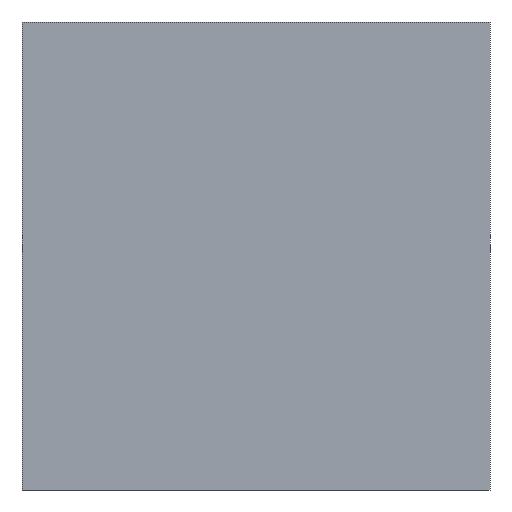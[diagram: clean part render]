
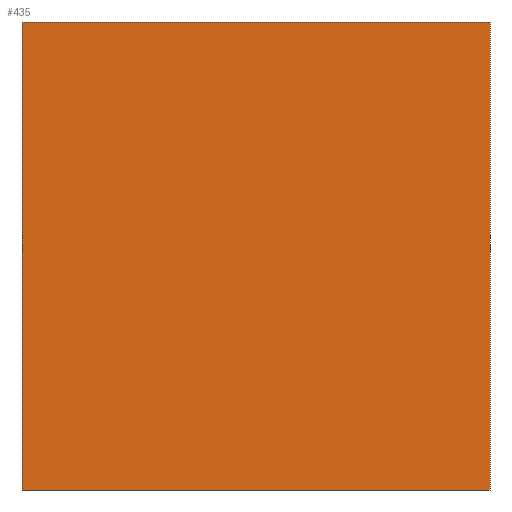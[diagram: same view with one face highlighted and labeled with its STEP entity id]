
A CAD part, front view. The second image highlights one B-rep face of the part: STEP entity #435.
In plain terms, the highlighted planar face has unit normal (0, -1, 0).
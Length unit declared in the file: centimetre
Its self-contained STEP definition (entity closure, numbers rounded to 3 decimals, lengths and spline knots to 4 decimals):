
#12 = VECTOR ( 'NONE', #166, 100. ) ;
#24 = CARTESIAN_POINT ( 'NONE',  ( 0., 0., 0. ) ) ;
#37 = EDGE_CURVE ( 'NONE', #336, #404, #504, .T. ) ;
#38 = CARTESIAN_POINT ( 'NONE',  ( 1000., 0., 1000. ) ) ;
#49 = ORIENTED_EDGE ( 'NONE', *, *, #356, .T. ) ;
#59 = CARTESIAN_POINT ( 'NONE',  ( 1000., 0., 1000. ) ) ;
#81 = DIRECTION ( 'NONE',  ( 0., 1., 0. ) ) ;
#83 = CARTESIAN_POINT ( 'NONE',  ( 0., 0., 1000. ) ) ;
#119 = ORIENTED_EDGE ( 'NONE', *, *, #508, .F. ) ;
#135 = LINE ( 'NONE', #256, #282 ) ;
#165 = FACE_OUTER_BOUND ( 'NONE', #420, .T. ) ;
#166 = DIRECTION ( 'NONE',  ( 0., 0., -1. ) ) ;
#170 = VECTOR ( 'NONE', #509, 100. ) ;
#175 = EDGE_CURVE ( 'NONE', #293, #404, #458, .T. ) ;
#202 = CARTESIAN_POINT ( 'NONE',  ( 1000., 0., 0. ) ) ;
#237 = DIRECTION ( 'NONE',  ( 0., 0., 1. ) ) ;
#256 = CARTESIAN_POINT ( 'NONE',  ( 0., 0., 1000. ) ) ;
#282 = VECTOR ( 'NONE', #406, 100. ) ;
#283 = LINE ( 'NONE', #359, #170 ) ;
#293 = VERTEX_POINT ( 'NONE', #24 ) ;
#336 = VERTEX_POINT ( 'NONE', #59 ) ;
#339 = ORIENTED_EDGE ( 'NONE', *, *, #37, .F. ) ;
#343 = DIRECTION ( 'NONE',  ( 1., 0., 0. ) ) ;
#356 = EDGE_CURVE ( 'NONE', #386, #293, #283, .T. ) ;
#359 = CARTESIAN_POINT ( 'NONE',  ( 0., 0., 1000. ) ) ;
#384 = VECTOR ( 'NONE', #343, 100. ) ;
#386 = VERTEX_POINT ( 'NONE', #423 ) ;
#404 = VERTEX_POINT ( 'NONE', #202 ) ;
#406 = DIRECTION ( 'NONE',  ( 1., 0., 0. ) ) ;
#420 = EDGE_LOOP ( 'NONE', ( #461, #339, #119, #49 ) ) ;
#423 = CARTESIAN_POINT ( 'NONE',  ( 0., 0., 1000. ) ) ;
#435 = ADVANCED_FACE ( 'NONE', ( #165 ), #501, .F. ) ;
#458 = LINE ( 'NONE', #460, #384 ) ;
#460 = CARTESIAN_POINT ( 'NONE',  ( 0., 0., 0. ) ) ;
#461 = ORIENTED_EDGE ( 'NONE', *, *, #175, .T. ) ;
#472 = AXIS2_PLACEMENT_3D ( 'NONE', #83, #81, #237 ) ;
#501 = PLANE ( 'NONE',  #472 ) ;
#504 = LINE ( 'NONE', #38, #12 ) ;
#508 = EDGE_CURVE ( 'NONE', #386, #336, #135, .T. ) ;
#509 = DIRECTION ( 'NONE',  ( 0., 0., -1. ) ) ;
